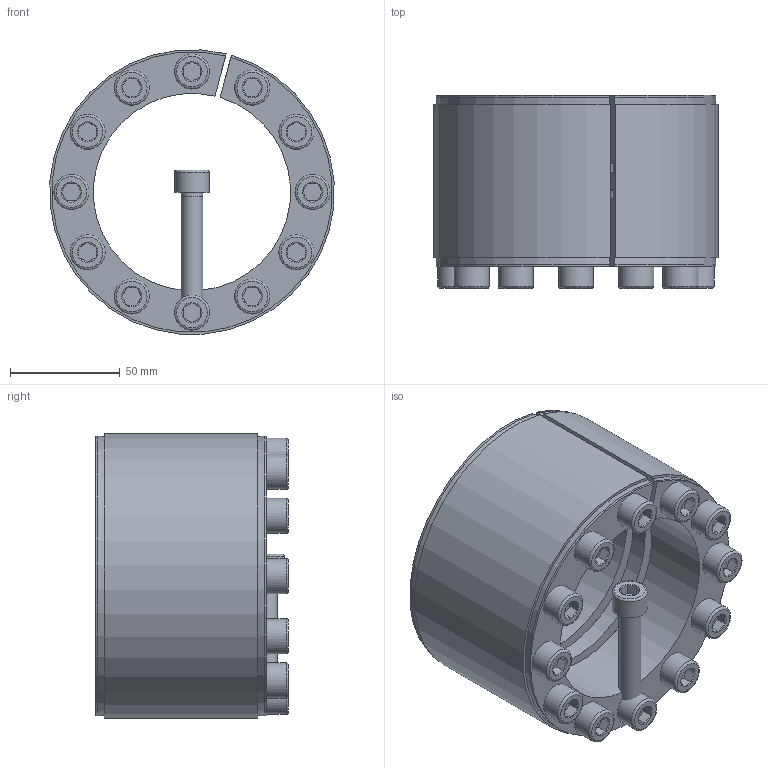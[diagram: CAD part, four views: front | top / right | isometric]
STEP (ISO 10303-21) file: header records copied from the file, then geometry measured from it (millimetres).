
FILE_DESCRIPTION( ( 'Unknown' ), '1' );
FILE_NAME( 'C:/Dokumente und Einstellungen/Sven/Desktop/homepage/cad - homepage/KBS11/KBS 11 - 90 x 130.stp', 'Unknown', ( 'Unknown' ), ( 'Unknown' ), 'XStep 1.0', 'Unknown', ' ' );
FILE_SCHEMA( ( 'automotive_design' ) );
Length unit declared in the file: millimetre
Products named in the file (3): Assem1; KBS 11 - 90 x 130; ISO EN DIN 4762 M10x60
Bounding box: 129.61 x 88 x 129.61 mm (x, y, z)
Volume: 929272.6 mm3; surface area: 264417 mm2
Topology: 15 solids, 15 shells, 437 faces, 929 edges, 574 vertices
Faces by surface type: plane 176, cylinder 136, cone 99, torus 26
Full cylindrical faces by diameter (mm): 9 x13, 10 x98, 16 x13
Entity records: 3002 total; most frequent: CARTESIAN_POINT 457, DIRECTION 444, ORIENTED_EDGE 322, AXIS2_PLACEMENT_3D 202, EDGE_LOOP 200, EDGE_CURVE 161, VERTEX_POINT 131, FACE_OUTER_BOUND 123
